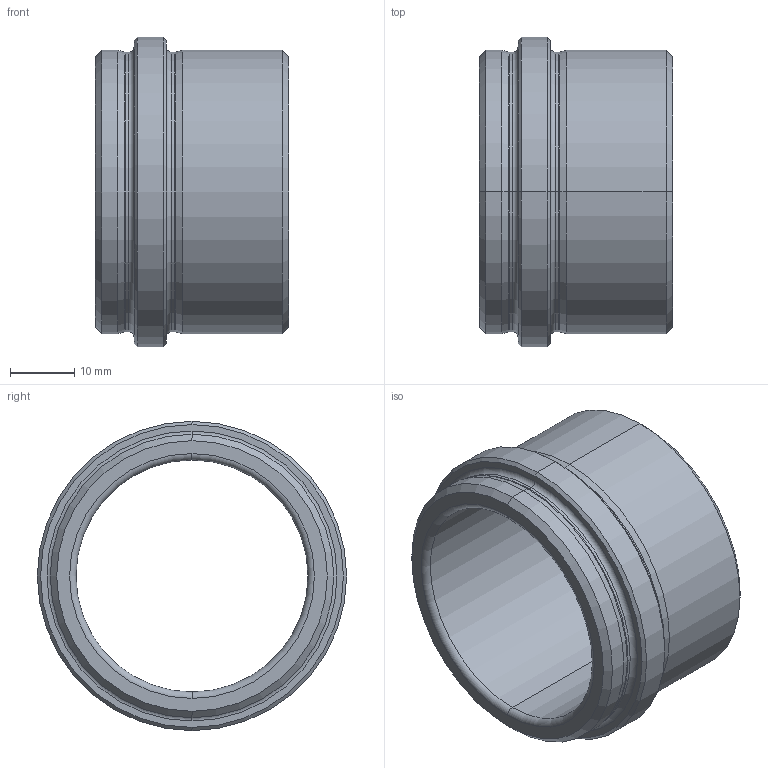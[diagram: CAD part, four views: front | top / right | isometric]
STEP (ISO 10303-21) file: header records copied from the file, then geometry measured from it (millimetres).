
FILE_DESCRIPTION (( 'STEP AP214' ), '1' );
FILE_NAME ('BRGB5001.STEP', '2020-05-07T07:37:38', ( 'August' ), ( '' ), 'SwSTEP 2.0', 'SolidWorks 2018', '' );
FILE_SCHEMA (( 'AUTOMOTIVE_DESIGN' ));
Length unit declared in the file: millimetre
Products named in the file (1): BRGB5001
Bounding box: 30 x 48 x 48 mm (x, y, z)
Volume: 16180 mm3; surface area: 8828.8 mm2
Topology: 1 solids, 1 shells, 40 faces, 80 edges, 44 vertices
Faces by surface type: torus 12, cone 12, cylinder 12, plane 4
Entity records: 1074 total; most frequent: DIRECTION 218, CARTESIAN_POINT 165, ORIENTED_EDGE 160, AXIS2_PLACEMENT_3D 97, EDGE_CURVE 80, CIRCLE 56, EDGE_LOOP 44, VERTEX_POINT 44
